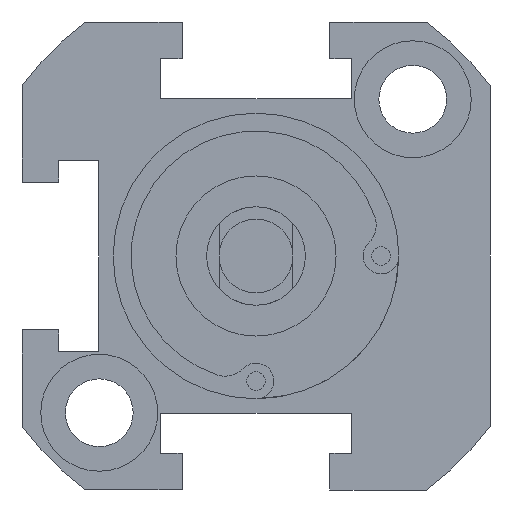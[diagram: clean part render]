
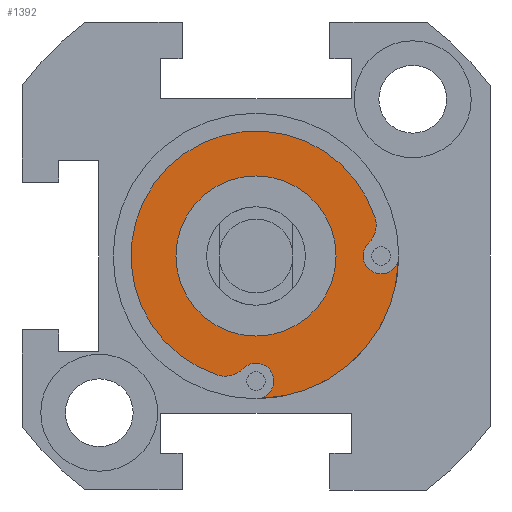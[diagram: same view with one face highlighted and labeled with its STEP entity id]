
A CAD part, front view. The second image highlights one B-rep face of the part: STEP entity #1392.
In plain terms, the highlighted planar face has unit normal (0, -1, 0).
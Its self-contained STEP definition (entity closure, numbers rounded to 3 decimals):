
#47 = VERTEX_POINT ( 'NONE', #431 ) ;
#56 = AXIS2_PLACEMENT_3D ( 'NONE', #2647, #1823, #2947 ) ;
#75 = DIRECTION ( 'NONE',  ( 0., 0., 1. ) ) ;
#78 = ORIENTED_EDGE ( 'NONE', *, *, #1142, .T. ) ;
#138 = CARTESIAN_POINT ( 'NONE',  ( -2.489, -34., -9.761 ) ) ;
#214 = EDGE_LOOP ( 'NONE', ( #831, #1605 ) ) ;
#257 = ORIENTED_EDGE ( 'NONE', *, *, #3131, .T. ) ;
#263 = DIRECTION ( 'NONE',  ( 0., 1., 0. ) ) ;
#319 = CARTESIAN_POINT ( 'NONE',  ( -2.489, -34., -7.761 ) ) ;
#325 = AXIS2_PLACEMENT_3D ( 'NONE', #2648, #921, #642 ) ;
#431 = CARTESIAN_POINT ( 'NONE',  ( 11.6, -34., 0. ) ) ;
#446 = AXIS2_PLACEMENT_3D ( 'NONE', #1094, #3083, #1383 ) ;
#477 = VERTEX_POINT ( 'NONE', #138 ) ;
#608 = CARTESIAN_POINT ( 'NONE',  ( 0., -34., -6.5 ) ) ;
#642 = DIRECTION ( 'NONE',  ( 0., 0., 1. ) ) ;
#681 = CIRCLE ( 'NONE', #446, 2. ) ;
#697 = EDGE_CURVE ( 'NONE', #2068, #2927, #1241, .T. ) ;
#710 = ORIENTED_EDGE ( 'NONE', *, *, #3512, .T. ) ;
#767 = CARTESIAN_POINT ( 'NONE',  ( 0., -34., 0. ) ) ;
#799 = EDGE_CURVE ( 'NONE', #930, #477, #1201, .T. ) ;
#831 = ORIENTED_EDGE ( 'NONE', *, *, #1656, .T. ) ;
#885 = CARTESIAN_POINT ( 'NONE',  ( 0., -34., 0. ) ) ;
#921 = DIRECTION ( 'NONE',  ( 0., 1., 0. ) ) ;
#930 = VERTEX_POINT ( 'NONE', #2394 ) ;
#954 = DIRECTION ( 'NONE',  ( 0., 0., 1. ) ) ;
#963 = FACE_OUTER_BOUND ( 'NONE', #3480, .T. ) ;
#1045 = CIRCLE ( 'NONE', #3259, 11.6 ) ;
#1058 = FACE_BOUND ( 'NONE', #214, .T. ) ;
#1090 = AXIS2_PLACEMENT_3D ( 'NONE', #3526, #2361, #75 ) ;
#1094 = CARTESIAN_POINT ( 'NONE',  ( 7.761, -34., 2.489 ) ) ;
#1123 = DIRECTION ( 'NONE',  ( 0., 0., 1. ) ) ;
#1142 = EDGE_CURVE ( 'NONE', #2595, #1150, #3106, .T. ) ;
#1150 = VERTEX_POINT ( 'NONE', #1541 ) ;
#1180 = DIRECTION ( 'NONE',  ( 0., 1., 0. ) ) ;
#1201 = CIRCLE ( 'NONE', #3399, 2. ) ;
#1223 = CARTESIAN_POINT ( 'NONE',  ( 9.665, -34., 3.099 ) ) ;
#1241 = CIRCLE ( 'NONE', #1522, 1.45 ) ;
#1383 = DIRECTION ( 'NONE',  ( 0., 0., -1. ) ) ;
#1392 = ADVANCED_FACE ( 'NONE', ( #1058, #963 ), #3632, .T. ) ;
#1444 = DIRECTION ( 'NONE',  ( 0., 0., -1. ) ) ;
#1467 = DIRECTION ( 'NONE',  ( 0., 1., 0. ) ) ;
#1476 = DIRECTION ( 'NONE',  ( 0., -1., 0. ) ) ;
#1522 = AXIS2_PLACEMENT_3D ( 'NONE', #3680, #263, #2537 ) ;
#1541 = CARTESIAN_POINT ( 'NONE',  ( 0., -34., -11.6 ) ) ;
#1592 = CIRCLE ( 'NONE', #1944, 6.5 ) ;
#1605 = ORIENTED_EDGE ( 'NONE', *, *, #3228, .T. ) ;
#1656 = EDGE_CURVE ( 'NONE', #3381, #3557, #2135, .T. ) ;
#1674 = EDGE_CURVE ( 'NONE', #47, #2068, #2659, .T. ) ;
#1737 = CARTESIAN_POINT ( 'NONE',  ( 0., -34., 0. ) ) ;
#1823 = DIRECTION ( 'NONE',  ( 0., -1., 0. ) ) ;
#1909 = DIRECTION ( 'NONE',  ( 0., 0., 1. ) ) ;
#1944 = AXIS2_PLACEMENT_3D ( 'NONE', #1737, #2824, #1123 ) ;
#2068 = VERTEX_POINT ( 'NONE', #2236 ) ;
#2071 = DIRECTION ( 'NONE',  ( 0., 0., 1. ) ) ;
#2135 = CIRCLE ( 'NONE', #2430, 6.5 ) ;
#2164 = CARTESIAN_POINT ( 'NONE',  ( 9.146, -34., 1.046 ) ) ;
#2169 = AXIS2_PLACEMENT_3D ( 'NONE', #767, #3299, #1909 ) ;
#2220 = ORIENTED_EDGE ( 'NONE', *, *, #3305, .F. ) ;
#2236 = CARTESIAN_POINT ( 'NONE',  ( 10.15, -34., -1.45 ) ) ;
#2290 = ORIENTED_EDGE ( 'NONE', *, *, #2339, .F. ) ;
#2339 = EDGE_CURVE ( 'NONE', #930, #3397, #3269, .T. ) ;
#2361 = DIRECTION ( 'NONE',  ( 0., 1., 0. ) ) ;
#2362 = DIRECTION ( 'NONE',  ( 0., 1., 0. ) ) ;
#2394 = CARTESIAN_POINT ( 'NONE',  ( -3.099, -34., -9.665 ) ) ;
#2430 = AXIS2_PLACEMENT_3D ( 'NONE', #2878, #1180, #2071 ) ;
#2448 = ORIENTED_EDGE ( 'NONE', *, *, #697, .T. ) ;
#2537 = DIRECTION ( 'NONE',  ( 0., 0., 1. ) ) ;
#2563 = CIRCLE ( 'NONE', #56, 2. ) ;
#2595 = VERTEX_POINT ( 'NONE', #3074 ) ;
#2615 = DIRECTION ( 'NONE',  ( 0., 0., 1. ) ) ;
#2647 = CARTESIAN_POINT ( 'NONE',  ( -2.489, -34., -7.761 ) ) ;
#2648 = CARTESIAN_POINT ( 'NONE',  ( 0., -34., -10.15 ) ) ;
#2659 = CIRCLE ( 'NONE', #1090, 1.45 ) ;
#2667 = CARTESIAN_POINT ( 'NONE',  ( 0., -34., 0. ) ) ;
#2824 = DIRECTION ( 'NONE',  ( 0., 1., 0. ) ) ;
#2878 = CARTESIAN_POINT ( 'NONE',  ( 0., -34., 0. ) ) ;
#2927 = VERTEX_POINT ( 'NONE', #2164 ) ;
#2947 = DIRECTION ( 'NONE',  ( 0., 0., -1. ) ) ;
#3074 = CARTESIAN_POINT ( 'NONE',  ( -1.046, -34., -9.146 ) ) ;
#3083 = DIRECTION ( 'NONE',  ( 0., -1., 0. ) ) ;
#3106 = CIRCLE ( 'NONE', #325, 1.45 ) ;
#3131 = EDGE_CURVE ( 'NONE', #2927, #3397, #681, .T. ) ;
#3202 = ORIENTED_EDGE ( 'NONE', *, *, #799, .T. ) ;
#3228 = EDGE_CURVE ( 'NONE', #3557, #3381, #1592, .T. ) ;
#3238 = CARTESIAN_POINT ( 'NONE',  ( 0., -34., 6.5 ) ) ;
#3259 = AXIS2_PLACEMENT_3D ( 'NONE', #885, #1467, #2615 ) ;
#3269 = CIRCLE ( 'NONE', #3470, 10.15 ) ;
#3299 = DIRECTION ( 'NONE',  ( 0., -1., 0. ) ) ;
#3305 = EDGE_CURVE ( 'NONE', #47, #1150, #1045, .T. ) ;
#3326 = ORIENTED_EDGE ( 'NONE', *, *, #1674, .T. ) ;
#3381 = VERTEX_POINT ( 'NONE', #608 ) ;
#3397 = VERTEX_POINT ( 'NONE', #1223 ) ;
#3399 = AXIS2_PLACEMENT_3D ( 'NONE', #319, #1476, #1444 ) ;
#3470 = AXIS2_PLACEMENT_3D ( 'NONE', #2667, #2362, #954 ) ;
#3480 = EDGE_LOOP ( 'NONE', ( #3326, #2448, #257, #2290, #3202, #710, #78, #2220 ) ) ;
#3512 = EDGE_CURVE ( 'NONE', #477, #2595, #2563, .T. ) ;
#3526 = CARTESIAN_POINT ( 'NONE',  ( 10.15, -34., 0. ) ) ;
#3557 = VERTEX_POINT ( 'NONE', #3238 ) ;
#3632 = PLANE ( 'NONE',  #2169 ) ;
#3680 = CARTESIAN_POINT ( 'NONE',  ( 10.15, -34., 0. ) ) ;
